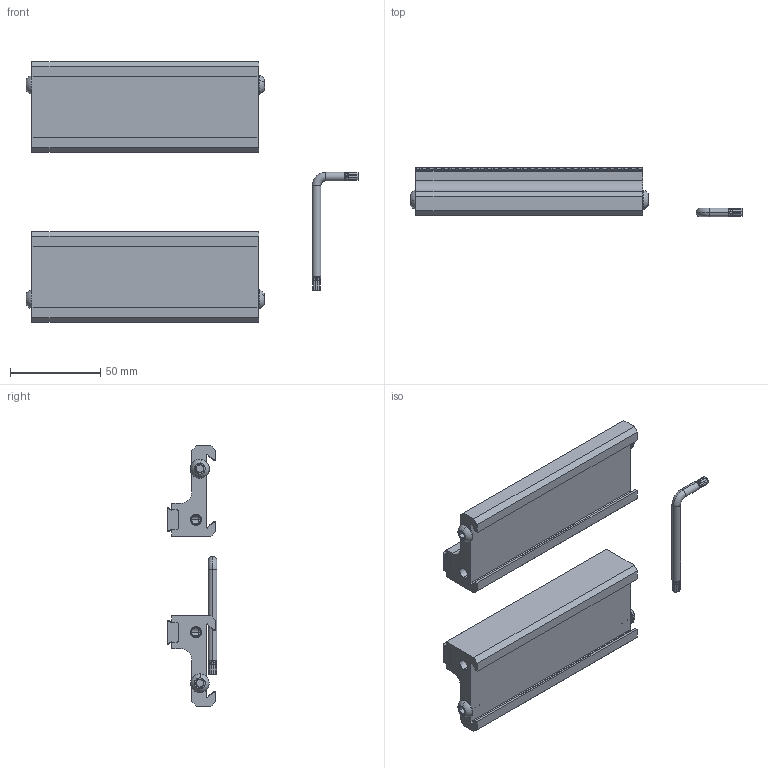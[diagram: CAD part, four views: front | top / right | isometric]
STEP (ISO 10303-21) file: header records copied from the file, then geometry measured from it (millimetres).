
FILE_DESCRIPTION (( 'STEP AP214' ), '1' );
FILE_NAME ('VGA-VA5.STEP', '2024-04-10T00:50:51', ( '' ), ( '' ), 'SwSTEP 2.0', 'SolidWorks 2021', '' );
FILE_SCHEMA (( 'AUTOMOTIVE_DESIGN' ));
Length unit declared in the file: inch
Products named in the file (6): VA56-7_VA56-7; IP25.L-KEY_IP25.L-KEY; M6X8MM.BHCS_M6X8MM.BHCS; M5X12MM.TPFHS_M5X12MM.TPFHS; VGA-VA5; VA56-5_VA56-5
Assembly tree (19 placements, depth 2):
  VGA-VA5
    VA56-5_VA56-5  x2
    VA56-7_VA56-7  x2
    M5X12MM.TPFHS_M5X12MM.TPFHS  x10
    M6X8MM.BHCS_M6X8MM.BHCS  x4
    IP25.L-KEY_IP25.L-KEY
Bounding box: 184.17 x 27.49 x 144.42 mm (x, y, z)
Volume: 175118.5 mm3; surface area: 65132.6 mm2
Topology: 19 solids, 19 shells, 1894 faces, 5036 edges, 3194 vertices
Faces by surface type: cylinder 1004, plane 452, cone 312, torus 62, bspline 56, sphere 8
Entity records: 24186 total; most frequent: CARTESIAN_POINT 9083, ORIENTED_EDGE 3330, DIRECTION 2887, EDGE_CURVE 1665, AXIS2_PLACEMENT_3D 1072, VERTEX_POINT 1057, LINE 743, VECTOR 743
